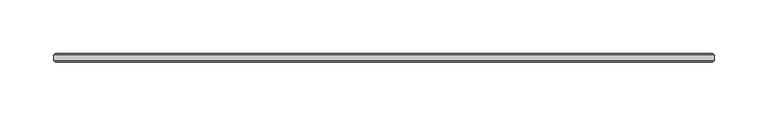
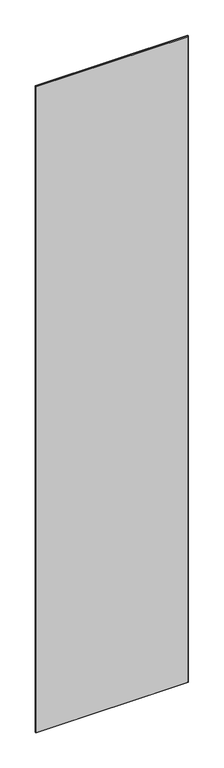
"""IFC4 building model written with IfcOpenShell, lengths in millimetres: plate geometry, 1-AMG-1-Панель одинарный витраж 8, 10 : Смещение 32 Толщина 8mm."""

from ifc_helpers import new_model, si_unit, origin, place, context, project, spatial, faceted_brep, source, transform, mapped, element, save


def plate_6319510f(model_context):
    return source(origin(), model_context, "Body", "Brep", [
        faceted_brep([(326.5, -29.5038347, 2751.0), (-289.5, -29.5038347, 2751.0), (-289.5, -34.4961653, 2751.0), (326.5, -34.4961653, 2751.0), (326.5, -34.5039422, -7.0), (-289.5, -34.5039422, -7.0), (-289.5, -29.5038347, -7.0), (326.5, -29.5038347, -7.0), (-287.9961653, -36.0, 2749.4961653), (-287.9961653, -36.0, -5.5039422), (324.9961653, -36.0, -5.5039422), (324.9961653, -36.0, 2749.4961653), (324.9961653, -28.0, 2749.4961653), (324.9961653, -28.0, -5.4961653), (-287.9961653, -28.0, -5.4961653), (-287.9961653, -28.0, 2749.4961653)], [[[0, 1, 2, 3]], [[4, 5, 6, 7]], [[8, 9, 10, 11]], [[1, 6, 5, 2]], [[12, 13, 14, 15]], [[3, 4, 7, 0]], [[3, 11, 10, 4]], [[7, 13, 12, 0]], [[5, 9, 8, 2]], [[1, 15, 14, 6]], [[0, 12, 15, 1]], [[2, 8, 11, 3]], [[6, 14, 13, 7]], [[4, 10, 9, 5]]]),
    ])


if __name__ == "__main__":
    model = new_model("IFC4")
    model_context = context("Model", 3, world=origin())
    ifc_project = project(units=[si_unit("LENGTHUNIT", "METRE", prefix="MILLI")], contexts=[model_context])
    site = spatial("IfcSite", under=ifc_project)
    building = spatial("IfcBuilding", under=site)
    placement = place(None, origin())
    plate_shape = plate_6319510f(model_context)
    element("IfcPlate", 1, ObjectType="1-AMG-1-Панель одинарный витраж 8, 10 : Смещение 32 Толщина 8mm", at=placement, inside=building, context=model_context, shape_type="MappedRepresentation", body=[
        mapped(plate_shape, transform((0.0, 0.0, 0.0), x_axis=(1.0, 0.0, 0.0), y_axis=(0.0, 1.0, 0.0), z_axis=(0.0, 0.0, 1.0))),
    ])
    save(model, "model.ifc")
